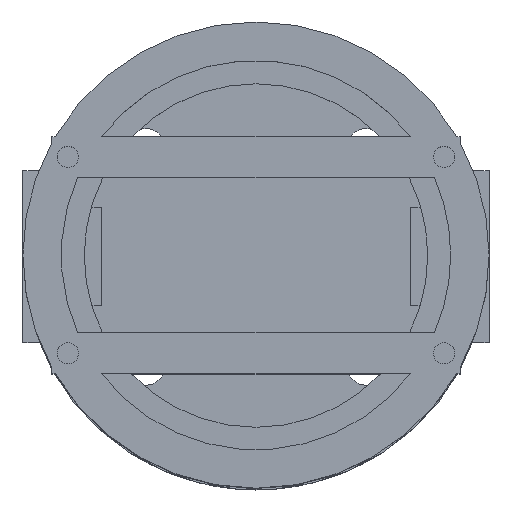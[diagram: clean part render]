
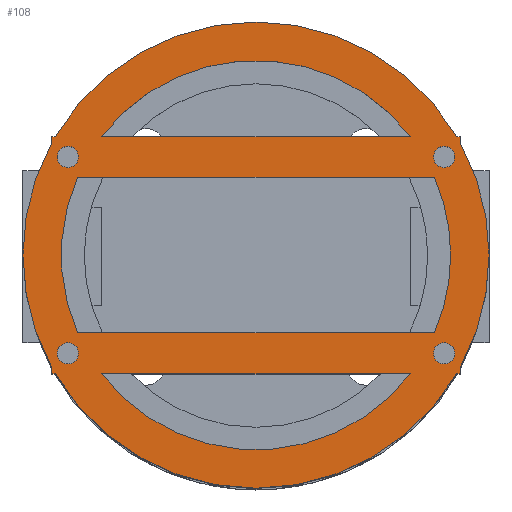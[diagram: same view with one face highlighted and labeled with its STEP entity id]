
A CAD part, top view. The second image highlights one B-rep face of the part: STEP entity #108.
In plain terms, the highlighted planar face has unit normal (0, 0, 1).
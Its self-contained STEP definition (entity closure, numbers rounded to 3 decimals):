
#24 = VERTEX_POINT('',#25);
#25 = CARTESIAN_POINT('',(25.,13.684,148.));
#40 = VERTEX_POINT('',#41);
#41 = CARTESIAN_POINT('',(25.,14.5,148.));
#47 = EDGE_CURVE('',#24,#40,#48,.T.);
#48 = LINE('',#49,#50);
#49 = CARTESIAN_POINT('',(25.,9.5,148.));
#50 = VECTOR('',#51,1.);
#51 = DIRECTION('',(0.,1.,0.));
#61 = EDGE_CURVE('',#62,#64,#66,.T.);
#62 = VERTEX_POINT('',#63);
#63 = CARTESIAN_POINT('',(25.,-13.684,148.));
#64 = VERTEX_POINT('',#65);
#65 = CARTESIAN_POINT('',(28.5,0.,148.));
#66 = CIRCLE('',#67,28.5);
#67 = AXIS2_PLACEMENT_3D('',#68,#69,#70);
#68 = CARTESIAN_POINT('',(0.,0.,148.));
#69 = DIRECTION('',(0.,0.,1.));
#70 = DIRECTION('',(1.,0.,0.));
#97 = EDGE_CURVE('',#64,#24,#98,.T.);
#98 = CIRCLE('',#99,28.5);
#99 = AXIS2_PLACEMENT_3D('',#100,#101,#102);
#100 = CARTESIAN_POINT('',(0.,0.,148.));
#101 = DIRECTION('',(0.,0.,1.));
#102 = DIRECTION('',(1.,0.,0.));
#108 = ADVANCED_FACE('',(#109,#195,#206,#225,#236,#247,#266,#311),#322,
  .T.);
#109 = FACE_BOUND('',#110,.T.);
#110 = EDGE_LOOP('',(#111,#122,#130,#138,#147,#155,#161,#162,#163,#164,
    #172,#181,#189));
#111 = ORIENTED_EDGE('',*,*,#112,.T.);
#112 = EDGE_CURVE('',#113,#115,#117,.T.);
#113 = VERTEX_POINT('',#114);
#114 = CARTESIAN_POINT('',(-25.,13.684,148.));
#115 = VERTEX_POINT('',#116);
#116 = CARTESIAN_POINT('',(-25.,-13.684,148.));
#117 = CIRCLE('',#118,28.5);
#118 = AXIS2_PLACEMENT_3D('',#119,#120,#121);
#119 = CARTESIAN_POINT('',(0.,0.,148.));
#120 = DIRECTION('',(0.,0.,1.));
#121 = DIRECTION('',(1.,0.,0.));
#122 = ORIENTED_EDGE('',*,*,#123,.F.);
#123 = EDGE_CURVE('',#124,#115,#126,.T.);
#124 = VERTEX_POINT('',#125);
#125 = CARTESIAN_POINT('',(-25.,-14.5,148.));
#126 = LINE('',#127,#128);
#127 = CARTESIAN_POINT('',(-25.,-14.5,148.));
#128 = VECTOR('',#129,1.);
#129 = DIRECTION('',(0.,1.,0.));
#130 = ORIENTED_EDGE('',*,*,#131,.T.);
#131 = EDGE_CURVE('',#124,#132,#134,.T.);
#132 = VERTEX_POINT('',#133);
#133 = CARTESIAN_POINT('',(-24.536,-14.5,148.));
#134 = LINE('',#135,#136);
#135 = CARTESIAN_POINT('',(-25.,-14.5,148.));
#136 = VECTOR('',#137,1.);
#137 = DIRECTION('',(1.,0.,0.));
#138 = ORIENTED_EDGE('',*,*,#139,.T.);
#139 = EDGE_CURVE('',#132,#140,#142,.T.);
#140 = VERTEX_POINT('',#141);
#141 = CARTESIAN_POINT('',(24.536,-14.5,148.));
#142 = CIRCLE('',#143,28.5);
#143 = AXIS2_PLACEMENT_3D('',#144,#145,#146);
#144 = CARTESIAN_POINT('',(0.,0.,148.));
#145 = DIRECTION('',(0.,0.,1.));
#146 = DIRECTION('',(1.,0.,0.));
#147 = ORIENTED_EDGE('',*,*,#148,.T.);
#148 = EDGE_CURVE('',#140,#149,#151,.T.);
#149 = VERTEX_POINT('',#150);
#150 = CARTESIAN_POINT('',(25.,-14.5,148.));
#151 = LINE('',#152,#153);
#152 = CARTESIAN_POINT('',(-25.,-14.5,148.));
#153 = VECTOR('',#154,1.);
#154 = DIRECTION('',(1.,0.,0.));
#155 = ORIENTED_EDGE('',*,*,#156,.T.);
#156 = EDGE_CURVE('',#149,#62,#157,.T.);
#157 = LINE('',#158,#159);
#158 = CARTESIAN_POINT('',(25.,-14.5,148.));
#159 = VECTOR('',#160,1.);
#160 = DIRECTION('',(0.,1.,0.));
#161 = ORIENTED_EDGE('',*,*,#61,.T.);
#162 = ORIENTED_EDGE('',*,*,#97,.T.);
#163 = ORIENTED_EDGE('',*,*,#47,.T.);
#164 = ORIENTED_EDGE('',*,*,#165,.F.);
#165 = EDGE_CURVE('',#166,#40,#168,.T.);
#166 = VERTEX_POINT('',#167);
#167 = CARTESIAN_POINT('',(24.536,14.5,148.));
#168 = LINE('',#169,#170);
#169 = CARTESIAN_POINT('',(-25.,14.5,148.));
#170 = VECTOR('',#171,1.);
#171 = DIRECTION('',(1.,0.,0.));
#172 = ORIENTED_EDGE('',*,*,#173,.T.);
#173 = EDGE_CURVE('',#166,#174,#176,.T.);
#174 = VERTEX_POINT('',#175);
#175 = CARTESIAN_POINT('',(-24.536,14.5,148.));
#176 = CIRCLE('',#177,28.5);
#177 = AXIS2_PLACEMENT_3D('',#178,#179,#180);
#178 = CARTESIAN_POINT('',(0.,0.,148.));
#179 = DIRECTION('',(0.,0.,1.));
#180 = DIRECTION('',(1.,0.,0.));
#181 = ORIENTED_EDGE('',*,*,#182,.F.);
#182 = EDGE_CURVE('',#183,#174,#185,.T.);
#183 = VERTEX_POINT('',#184);
#184 = CARTESIAN_POINT('',(-25.,14.5,148.));
#185 = LINE('',#186,#187);
#186 = CARTESIAN_POINT('',(-25.,14.5,148.));
#187 = VECTOR('',#188,1.);
#188 = DIRECTION('',(1.,0.,0.));
#189 = ORIENTED_EDGE('',*,*,#190,.F.);
#190 = EDGE_CURVE('',#113,#183,#191,.T.);
#191 = LINE('',#192,#193);
#192 = CARTESIAN_POINT('',(-25.,9.5,148.));
#193 = VECTOR('',#194,1.);
#194 = DIRECTION('',(0.,1.,0.));
#195 = FACE_BOUND('',#196,.T.);
#196 = EDGE_LOOP('',(#197));
#197 = ORIENTED_EDGE('',*,*,#198,.F.);
#198 = EDGE_CURVE('',#199,#199,#201,.T.);
#199 = VERTEX_POINT('',#200);
#200 = CARTESIAN_POINT('',(-21.7,-12.,148.));
#201 = CIRCLE('',#202,1.3);
#202 = AXIS2_PLACEMENT_3D('',#203,#204,#205);
#203 = CARTESIAN_POINT('',(-23.,-12.,148.));
#204 = DIRECTION('',(0.,0.,1.));
#205 = DIRECTION('',(1.,0.,0.));
#206 = FACE_BOUND('',#207,.T.);
#207 = EDGE_LOOP('',(#208,#219));
#208 = ORIENTED_EDGE('',*,*,#209,.F.);
#209 = EDGE_CURVE('',#210,#212,#214,.T.);
#210 = VERTEX_POINT('',#211);
#211 = CARTESIAN_POINT('',(-18.873,-14.5,148.));
#212 = VERTEX_POINT('',#213);
#213 = CARTESIAN_POINT('',(18.873,-14.5,148.));
#214 = CIRCLE('',#215,23.8);
#215 = AXIS2_PLACEMENT_3D('',#216,#217,#218);
#216 = CARTESIAN_POINT('',(0.,0.,148.));
#217 = DIRECTION('',(0.,0.,1.));
#218 = DIRECTION('',(1.,0.,0.));
#219 = ORIENTED_EDGE('',*,*,#220,.T.);
#220 = EDGE_CURVE('',#210,#212,#221,.T.);
#221 = LINE('',#222,#223);
#222 = CARTESIAN_POINT('',(-25.,-14.5,148.));
#223 = VECTOR('',#224,1.);
#224 = DIRECTION('',(1.,0.,0.));
#225 = FACE_BOUND('',#226,.T.);
#226 = EDGE_LOOP('',(#227));
#227 = ORIENTED_EDGE('',*,*,#228,.F.);
#228 = EDGE_CURVE('',#229,#229,#231,.T.);
#229 = VERTEX_POINT('',#230);
#230 = CARTESIAN_POINT('',(24.3,-12.,148.));
#231 = CIRCLE('',#232,1.3);
#232 = AXIS2_PLACEMENT_3D('',#233,#234,#235);
#233 = CARTESIAN_POINT('',(23.,-12.,148.));
#234 = DIRECTION('',(0.,0.,1.));
#235 = DIRECTION('',(1.,0.,0.));
#236 = FACE_BOUND('',#237,.T.);
#237 = EDGE_LOOP('',(#238));
#238 = ORIENTED_EDGE('',*,*,#239,.F.);
#239 = EDGE_CURVE('',#240,#240,#242,.T.);
#240 = VERTEX_POINT('',#241);
#241 = CARTESIAN_POINT('',(-21.7,12.,148.));
#242 = CIRCLE('',#243,1.3);
#243 = AXIS2_PLACEMENT_3D('',#244,#245,#246);
#244 = CARTESIAN_POINT('',(-23.,12.,148.));
#245 = DIRECTION('',(0.,0.,1.));
#246 = DIRECTION('',(1.,0.,0.));
#247 = FACE_BOUND('',#248,.T.);
#248 = EDGE_LOOP('',(#249,#259));
#249 = ORIENTED_EDGE('',*,*,#250,.F.);
#250 = EDGE_CURVE('',#251,#253,#255,.T.);
#251 = VERTEX_POINT('',#252);
#252 = CARTESIAN_POINT('',(-18.873,14.5,148.));
#253 = VERTEX_POINT('',#254);
#254 = CARTESIAN_POINT('',(18.873,14.5,148.));
#255 = LINE('',#256,#257);
#256 = CARTESIAN_POINT('',(-25.,14.5,148.));
#257 = VECTOR('',#258,1.);
#258 = DIRECTION('',(1.,0.,0.));
#259 = ORIENTED_EDGE('',*,*,#260,.F.);
#260 = EDGE_CURVE('',#253,#251,#261,.T.);
#261 = CIRCLE('',#262,23.8);
#262 = AXIS2_PLACEMENT_3D('',#263,#264,#265);
#263 = CARTESIAN_POINT('',(0.,0.,148.));
#264 = DIRECTION('',(0.,0.,1.));
#265 = DIRECTION('',(1.,0.,0.));
#266 = FACE_BOUND('',#267,.T.);
#267 = EDGE_LOOP('',(#268,#278,#287,#296,#304));
#268 = ORIENTED_EDGE('',*,*,#269,.T.);
#269 = EDGE_CURVE('',#270,#272,#274,.T.);
#270 = VERTEX_POINT('',#271);
#271 = CARTESIAN_POINT('',(-21.822,9.5,148.));
#272 = VERTEX_POINT('',#273);
#273 = CARTESIAN_POINT('',(21.822,9.5,148.));
#274 = LINE('',#275,#276);
#275 = CARTESIAN_POINT('',(-25.,9.5,148.));
#276 = VECTOR('',#277,1.);
#277 = DIRECTION('',(1.,0.,0.));
#278 = ORIENTED_EDGE('',*,*,#279,.F.);
#279 = EDGE_CURVE('',#280,#272,#282,.T.);
#280 = VERTEX_POINT('',#281);
#281 = CARTESIAN_POINT('',(23.8,0.,148.));
#282 = CIRCLE('',#283,23.8);
#283 = AXIS2_PLACEMENT_3D('',#284,#285,#286);
#284 = CARTESIAN_POINT('',(0.,0.,148.));
#285 = DIRECTION('',(0.,0.,1.));
#286 = DIRECTION('',(1.,0.,0.));
#287 = ORIENTED_EDGE('',*,*,#288,.F.);
#288 = EDGE_CURVE('',#289,#280,#291,.T.);
#289 = VERTEX_POINT('',#290);
#290 = CARTESIAN_POINT('',(21.822,-9.5,148.));
#291 = CIRCLE('',#292,23.8);
#292 = AXIS2_PLACEMENT_3D('',#293,#294,#295);
#293 = CARTESIAN_POINT('',(0.,0.,148.));
#294 = DIRECTION('',(0.,0.,1.));
#295 = DIRECTION('',(1.,0.,0.));
#296 = ORIENTED_EDGE('',*,*,#297,.F.);
#297 = EDGE_CURVE('',#298,#289,#300,.T.);
#298 = VERTEX_POINT('',#299);
#299 = CARTESIAN_POINT('',(-21.822,-9.5,148.));
#300 = LINE('',#301,#302);
#301 = CARTESIAN_POINT('',(-25.,-9.5,148.));
#302 = VECTOR('',#303,1.);
#303 = DIRECTION('',(1.,0.,0.));
#304 = ORIENTED_EDGE('',*,*,#305,.F.);
#305 = EDGE_CURVE('',#270,#298,#306,.T.);
#306 = CIRCLE('',#307,23.8);
#307 = AXIS2_PLACEMENT_3D('',#308,#309,#310);
#308 = CARTESIAN_POINT('',(0.,0.,148.));
#309 = DIRECTION('',(0.,0.,1.));
#310 = DIRECTION('',(1.,0.,0.));
#311 = FACE_BOUND('',#312,.T.);
#312 = EDGE_LOOP('',(#313));
#313 = ORIENTED_EDGE('',*,*,#314,.F.);
#314 = EDGE_CURVE('',#315,#315,#317,.T.);
#315 = VERTEX_POINT('',#316);
#316 = CARTESIAN_POINT('',(24.3,12.,148.));
#317 = CIRCLE('',#318,1.3);
#318 = AXIS2_PLACEMENT_3D('',#319,#320,#321);
#319 = CARTESIAN_POINT('',(23.,12.,148.));
#320 = DIRECTION('',(0.,0.,1.));
#321 = DIRECTION('',(1.,0.,0.));
#322 = PLANE('',#323);
#323 = AXIS2_PLACEMENT_3D('',#324,#325,#326);
#324 = CARTESIAN_POINT('',(0.046,0.,148.));
#325 = DIRECTION('',(0.,0.,1.));
#326 = DIRECTION('',(1.,0.,0.));
